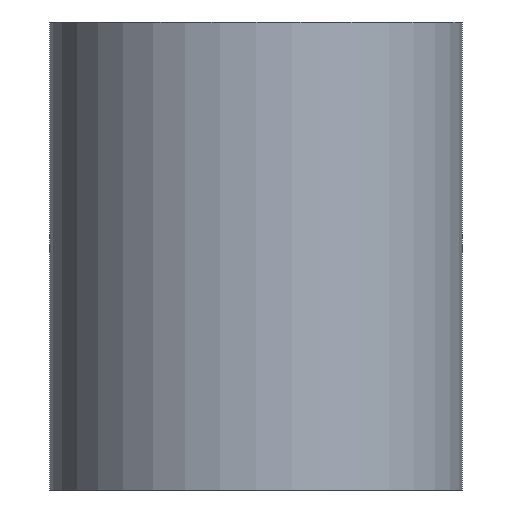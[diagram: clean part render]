
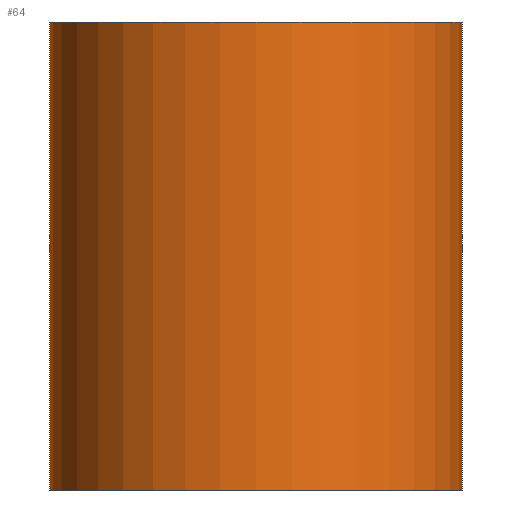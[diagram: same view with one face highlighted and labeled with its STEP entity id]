
A CAD part, front view. The second image highlights one B-rep face of the part: STEP entity #64.
In plain terms, the highlighted cylindrical face has radius 16 mm (diameter 32 mm), a partial arc.
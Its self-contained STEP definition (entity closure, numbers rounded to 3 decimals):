
#36 = CIRCLE ( 'NONE', #704, 16. ) ;
#64 = ADVANCED_FACE ( 'NONE', ( #595 ), #870, .T. ) ;
#75 = LINE ( 'NONE', #556, #270 ) ;
#88 = DIRECTION ( 'NONE',  ( -1., 0., 0. ) ) ;
#101 = CARTESIAN_POINT ( 'NONE',  ( 16., 0., 0. ) ) ;
#178 = EDGE_LOOP ( 'NONE', ( #883, #1044, #1079, #502 ) ) ;
#227 = DIRECTION ( 'NONE',  ( 0., 0., -1. ) ) ;
#256 = CARTESIAN_POINT ( 'NONE',  ( -16., 0., 0. ) ) ;
#270 = VECTOR ( 'NONE', #227, 1000. ) ;
#278 = CARTESIAN_POINT ( 'NONE',  ( 0., 0., 36.3 ) ) ;
#294 = DIRECTION ( 'NONE',  ( 1., 0., 0. ) ) ;
#307 = CARTESIAN_POINT ( 'NONE',  ( -16., 0., 36.3 ) ) ;
#358 = EDGE_CURVE ( 'NONE', #629, #612, #973, .T. ) ;
#467 = VECTOR ( 'NONE', #871, 1000. ) ;
#502 = ORIENTED_EDGE ( 'NONE', *, *, #742, .T. ) ;
#517 = AXIS2_PLACEMENT_3D ( 'NONE', #850, #591, #294 ) ;
#523 = DIRECTION ( 'NONE',  ( 1., 0., 0. ) ) ;
#556 = CARTESIAN_POINT ( 'NONE',  ( 16., 0., 36.3 ) ) ;
#591 = DIRECTION ( 'NONE',  ( 0., 0., 1. ) ) ;
#595 = FACE_OUTER_BOUND ( 'NONE', #178, .T. ) ;
#612 = VERTEX_POINT ( 'NONE', #256 ) ;
#629 = VERTEX_POINT ( 'NONE', #913 ) ;
#704 = AXIS2_PLACEMENT_3D ( 'NONE', #935, #940, #523 ) ;
#705 = VERTEX_POINT ( 'NONE', #101 ) ;
#742 = EDGE_CURVE ( 'NONE', #612, #705, #36, .T. ) ;
#750 = CIRCLE ( 'NONE', #517, 16. ) ;
#753 = DIRECTION ( 'NONE',  ( 0., 0., -1. ) ) ;
#761 = EDGE_CURVE ( 'NONE', #629, #808, #750, .T. ) ;
#808 = VERTEX_POINT ( 'NONE', #864 ) ;
#823 = AXIS2_PLACEMENT_3D ( 'NONE', #278, #753, #88 ) ;
#850 = CARTESIAN_POINT ( 'NONE',  ( 0., 0., 36.3 ) ) ;
#864 = CARTESIAN_POINT ( 'NONE',  ( 16., 0., 36.3 ) ) ;
#870 = CYLINDRICAL_SURFACE ( 'NONE', #823, 16. ) ;
#871 = DIRECTION ( 'NONE',  ( 0., 0., -1. ) ) ;
#883 = ORIENTED_EDGE ( 'NONE', *, *, #966, .F. ) ;
#913 = CARTESIAN_POINT ( 'NONE',  ( -16., 0., 36.3 ) ) ;
#935 = CARTESIAN_POINT ( 'NONE',  ( 0., 0., 0. ) ) ;
#940 = DIRECTION ( 'NONE',  ( 0., 0., 1. ) ) ;
#966 = EDGE_CURVE ( 'NONE', #808, #705, #75, .T. ) ;
#973 = LINE ( 'NONE', #307, #467 ) ;
#1044 = ORIENTED_EDGE ( 'NONE', *, *, #761, .F. ) ;
#1079 = ORIENTED_EDGE ( 'NONE', *, *, #358, .T. ) ;
